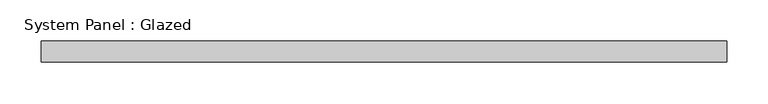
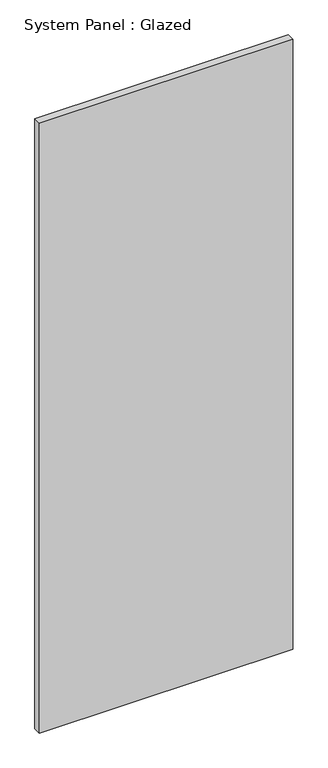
"""IFC4 building model written with IfcOpenShell, lengths in millimetres: plate geometry, System Panel : Glazed."""

from ifc_helpers import new_model, si_unit, origin, origin_with_axes, place, context, project, spatial, polyline, outline, extrude, source, transform, mapped, element, save


def system_panel_glazed_1b99a4e4(model_context):
    return source(origin(), model_context, "Body", "SweptSolid", [
        extrude(outline(polyline([(414.0389939, 19.05), (-414.0389939, 19.05), (-414.0389939, 44.45), (414.0389939, 44.45), (414.0389939, 19.05)])), origin_with_axes(), (0.0, 0.0, 1.0), 2108.2),
    ])


if __name__ == "__main__":
    model = new_model("IFC4")
    model_context = context("Model", 3, world=origin())
    ifc_project = project(units=[si_unit("LENGTHUNIT", "METRE", prefix="MILLI")], contexts=[model_context])
    site = spatial("IfcSite", under=ifc_project)
    building = spatial("IfcBuilding", under=site)
    placement = place(None, origin())
    system_panel_glazed_shape = system_panel_glazed_1b99a4e4(model_context)
    element("IfcPlate", 1, ObjectType="System Panel : Glazed", at=placement, inside=building, context=model_context, shape_type="MappedRepresentation", body=[
        mapped(system_panel_glazed_shape, transform((0.0, 0.0, 0.0), x_axis=(1.0, 0.0, 0.0), y_axis=(0.0, 1.0, 0.0), z_axis=(0.0, 0.0, 1.0))),
    ])
    save(model, "model.ifc")
